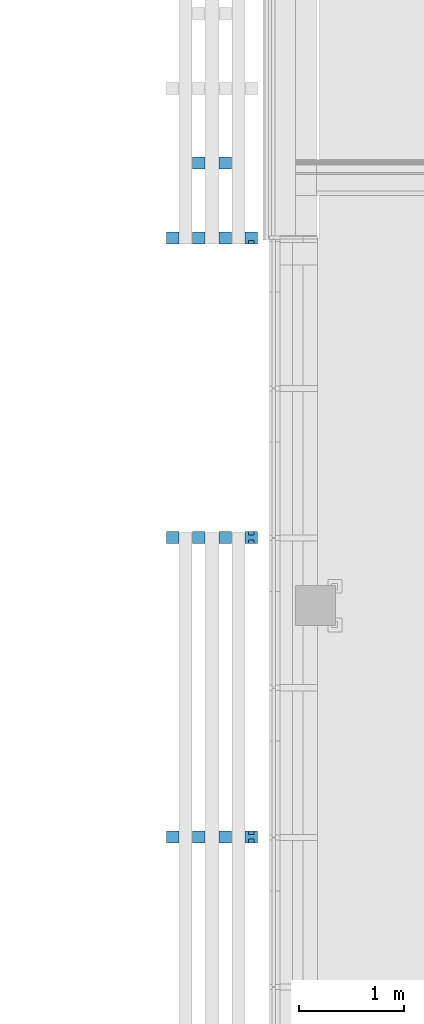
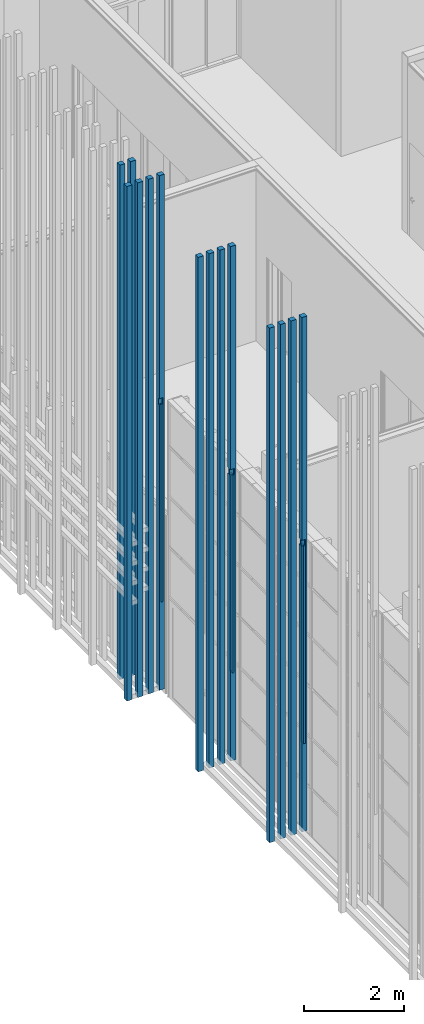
# One storey, part 146 of 260: 9 discrete accessories.
"""IFC2X3 building model written with IfcOpenShell, lengths in millimetres."""

from ifc_helpers import new_model, entity, si_unit, converted_unit, derived_unit, money_unit, direction, frame, origin_with_axes, place, context, subcontext, project, spatial, faceted_brep, material, material_list, type_object, element, save


model = new_model("IFC2X3")

# Units and contexts
model_context = context("Model", 3, precision=0.01, world=origin_with_axes(), true_north=direction((0.0, 1.0)))
body_context = subcontext(model_context, "Body", "Model", "MODEL_VIEW")
ifc_project = project(units=[si_unit("LENGTHUNIT", "METRE", prefix="MILLI"), si_unit("AREAUNIT", "SQUARE_METRE"), si_unit("VOLUMEUNIT", "CUBIC_METRE"), converted_unit("PLANEANGLEUNIT", "DEGREE", entity("IfcPlaneAngleMeasure", 0.0174532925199), si_unit("PLANEANGLEUNIT", "RADIAN"), dimensions=[0, 0, 0, 0, 0, 0, 0]), money_unit("EUR"), converted_unit("TIMEUNIT", "Year", entity("IfcTimeMeasure", 31556926.0), si_unit("TIMEUNIT", "SECOND"), dimensions=[0, 0, 1, 0, 0, 0, 0]), si_unit("MASSUNIT", "GRAM", prefix="KILO"), si_unit("THERMODYNAMICTEMPERATUREUNIT", "DEGREE_CELSIUS"), si_unit("LUMINOUSINTENSITYUNIT", "LUMEN"), si_unit("ENERGYUNIT", "JOULE", prefix="MEGA"), derived_unit("THERMALCONDUCTANCEUNIT", [(si_unit("POWERUNIT", "WATT"), 1), (si_unit("LENGTHUNIT", "METRE"), -1), (si_unit("THERMODYNAMICTEMPERATUREUNIT", "KELVIN"), -1)]), derived_unit("SPECIFICHEATCAPACITYUNIT", [(si_unit("ENERGYUNIT", "JOULE"), 1), (si_unit("MASSUNIT", "GRAM", prefix="KILO"), -1), (si_unit("THERMODYNAMICTEMPERATUREUNIT", "KELVIN"), -1)]), derived_unit("MASSDENSITYUNIT", [(si_unit("MASSUNIT", "GRAM", prefix="KILO"), 1), (si_unit("VOLUMEUNIT", "CUBIC_METRE"), -1)])], contexts=[model_context])

# Site, building, storey
site_placement = place(None, origin_with_axes())
site = spatial("IfcSite", under=ifc_project, at=site_placement, Name="Kolde pst 67a", CompositionType="ELEMENT")
building_placement = place(site_placement, origin_with_axes())
building = spatial("IfcBuilding", under=site, at=building_placement, Name="Riigigümnaasium", CompositionType="ELEMENT")
storey_placement = place(building_placement, origin_with_axes())
storey = spatial("IfcBuildingStorey", under=building, at=storey_placement, Name="1. korrus", CompositionType="ELEMENT", Elevation=0.0)

# Discrete accessories
ifc_material_1 = material(Name="_VÄLISVIIMISTLUS - sõrmjätkatud puitprussid 120x115mm, liitekohad vähemärgatavad, Platowood sõrmjätkatud kuusk või samaväärne; eeltöödeldud tuletõkkevõõbaga, tuletundlikkus B-s1, d0, Woodsafe Exterior WFX™ või samaväärne; kinnitused vastavalt EK osale")
ifc_material_list_1 = material_list([ifc_material_1, ifc_material_1, ifc_material_1, ifc_material_1])
discrete_accessory_type_1 = type_object("IfcDiscreteAccessoryType", Name="120 4-ne vertikaalne 870 x 115")
discrete_accessory_1_placement = place(storey_placement, frame((23688.0028833, 32242.9992107, 280.0), z_axis=(0.0, 0.0, 1.0), x_axis=(0.999999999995, 3.13999128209e-06, 0.0)))
element("IfcDiscreteAccessory", 1, at=discrete_accessory_1_placement, inside=storey, type_object=discrete_accessory_type_1, material=ifc_material_list_1, Name="Päikesevarjestus", context=body_context, shape_type="Brep", body=[
    faceted_brep([(-98.0002446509, -35.0001098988, 6990.0), (-48.0002446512, -35.0002668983, 6990.0), (-47.6623175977, -35.0002679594, 6990.0), (-47.6623175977, -35.0002679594, 7140.0), (-133.0, -34.9999999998, 7140.0), (-133.0, -34.9999999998, 6990.0), (-98.0002446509, -35.0001098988, 2146.5), (-48.0002446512, -35.0002668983, 2146.5), (-48.0003545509, -70.0002668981, 6990.0), (-47.6624274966, -70.0, 6990.0), (-47.6624274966, -70.0, 7140.0), (-133.0, -70.0, 7140.0), (-133.0, -70.0, 6990.0), (-133.0, -70.0, 12600.0), (-133.0, 45.0, 12600.0), (-133.0, 45.0, 7140.0), (-133.0, 10.0001255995, 7140.0), (-133.0, 10.0001255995, 6990.0), (-133.0, 45.0, 6990.0), (-133.0, 45.0, 0.0), (-133.0, -70.0, 0.0), (-98.0003545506, -70.0001098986, 6990.0), (-98.0003545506, -70.0001098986, 2146.5), (-48.0003545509, -70.0002668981, 2146.5), (-13.0, -70.0, 0.0), (-13.0, -70.0, 12600.0), (-13.0, 45.0, 12600.0), (-97.9999934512, 45.0000156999, 6990.0), (-97.9999934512, 45.0000156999, 2146.5), (-47.9999934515, 44.9998587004, 2146.5), (-47.9999934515, 44.9998587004, 6990.0), (-47.4889259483, 45.0, 6990.0), (-47.4889259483, 45.0, 7140.0), (-13.0, 45.0, 0.0), (-47.4890358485, 9.99985709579, 7140.0), (-47.4890358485, 9.99985709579, 6990.0), (-48.0001033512, 9.99985870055, 6990.0), (-98.0001033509, 10.0000157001, 6990.0), (-98.0001033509, 10.0000157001, 2146.5), (-48.0001033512, 9.99985870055, 2146.5)], [[[0, 1, 2, 3, 4, 5]], [[1, 0, 6, 7]], [[1, 8, 9, 2]], [[3, 2, 9, 10]], [[4, 3, 10, 11]], [[12, 5, 4, 11, 13, 14, 15, 16, 17, 18, 19, 20]], [[21, 0, 5, 12]], [[0, 21, 22, 6]], [[22, 23, 7, 6]], [[8, 1, 7, 23]], [[22, 21, 12, 20, 24, 25, 13, 11, 10, 9, 8, 23]], [[25, 26, 14, 13]], [[27, 28, 29, 30, 31, 32, 15, 14, 26, 33, 19, 18]], [[34, 16, 15, 32]], [[35, 36, 37, 17, 16, 34]], [[17, 37, 27, 18]], [[19, 33, 24, 20]], [[33, 26, 25, 24]], [[38, 28, 27, 37]], [[39, 29, 28, 38]], [[39, 36, 30, 29]], [[31, 30, 36, 35]], [[35, 34, 32, 31]], [[38, 37, 36, 39]]]),
    faceted_brep([(-383.0, -70.0, 0.0), (-263.0, -70.0, 0.0), (-263.0, -70.0, 12600.0), (-383.0, -70.0, 12600.0), (-383.0, 45.0, 0.0), (-263.0, 45.0, 0.0), (-263.0, 45.0, 12600.0), (-383.0, 45.0, 12600.0)], [[[0, 1, 2, 3]], [[0, 4, 5, 1]], [[1, 5, 6, 2]], [[3, 2, 6, 7]], [[4, 0, 3, 7]], [[5, 4, 7, 6]]]),
    faceted_brep([(-633.0, -70.0, 0.0), (-513.0, -70.0, 0.0), (-513.0, -70.0, 12600.0), (-633.0, -70.0, 12600.0), (-633.0, 45.0, 0.0), (-513.0, 45.0, 0.0), (-513.0, 45.0, 12600.0), (-633.0, 45.0, 12600.0)], [[[0, 1, 2, 3]], [[0, 4, 5, 1]], [[1, 5, 6, 2]], [[3, 2, 6, 7]], [[4, 0, 3, 7]], [[5, 4, 7, 6]]]),
    faceted_brep([(-883.0, -70.0, 0.0), (-763.0, -70.0, 0.0), (-763.0, -70.0, 12600.0), (-883.0, -70.0, 12600.0), (-883.0, 45.0, 0.0), (-763.0, 45.0, 0.0), (-763.0, 45.0, 12600.0), (-883.0, 45.0, 12600.0)], [[[0, 1, 2, 3]], [[0, 4, 5, 1]], [[1, 5, 6, 2]], [[3, 2, 6, 7]], [[4, 0, 3, 7]], [[5, 4, 7, 6]]]),
])
discrete_accessory_2_placement = place(storey_placement, frame((23687.9669618, 35102.9845193, 280.0), z_axis=(0.0, 0.0, 1.0), x_axis=(0.999999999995, 3.13999128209e-06, 0.0)))
element("IfcDiscreteAccessory", 2, at=discrete_accessory_2_placement, inside=storey, type_object=discrete_accessory_type_1, material=ifc_material_list_1, Name="Päikesevarjestus", context=body_context, shape_type="Brep", body=[
    faceted_brep([(-97.8229047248, 45.0, 2146.5), (-47.8229047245, 45.0, 2146.5), (-47.8229047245, 45.0, 6990.0), (-47.8229047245, 45.0, 7140.0), (-133.0, 45.0, 7140.0), (-133.0, 45.0, 12600.0), (-13.0, 45.0, 12600.0), (-13.0, 45.0, 0.0), (-133.0, 45.0, 0.0), (-133.0, 45.0, 6990.0), (-97.8229047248, 45.0, 6990.0), (-97.8230145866, 10.0120490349, 2146.5), (-47.8230145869, 10.0118920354, 2146.5), (-47.8230145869, 10.0118920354, 6990.0), (-47.8230145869, 10.0118920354, 7140.0), (-133.0, 10.0121594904, 7140.0), (-133.0, -70.0, 6990.0), (-133.0, -34.9998899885, 6990.0), (-133.0, -34.9998899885, 7140.0), (-133.0, -70.0, 7140.0), (-133.0, -70.0, 12600.0), (-133.0, 10.0121594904, 6990.0), (-133.0, -70.0, 0.0), (-13.0, -70.0, 12600.0), (-13.0, -70.0, 0.0), (-97.8230145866, 10.0120490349, 6990.0), (-97.964433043, -70.0, 6990.0), (-97.9643231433, -35.0000000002, 6990.0), (-47.9643231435, -35.0001569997, 6990.0), (-47.4532556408, -35.0001586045, 6990.0), (-47.4532556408, -35.0001586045, 7140.0), (-47.45336554, -70.0, 7140.0), (-47.9644330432, -70.0001569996, 2146.5), (-97.964433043, -70.0, 2146.5), (-47.45336554, -70.0, 6990.0), (-47.9644330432, -70.0001569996, 6990.0), (-97.9643231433, -35.0000000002, 2146.5), (-47.9643231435, -35.0001569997, 2146.5)], [[[0, 1, 2, 3, 4, 5, 6, 7, 8, 9, 10]], [[1, 0, 11, 12]], [[13, 2, 1, 12]], [[2, 13, 14, 3]], [[14, 15, 4, 3]], [[16, 17, 18, 19, 20, 5, 4, 15, 21, 9, 8, 22]], [[23, 6, 5, 20]], [[7, 6, 23, 24]], [[8, 7, 24, 22]], [[25, 10, 9, 21]], [[0, 10, 25, 11]], [[25, 13, 12, 11]], [[13, 25, 21, 15, 14]], [[16, 26, 27, 17]], [[17, 27, 28, 29, 30, 18]], [[18, 30, 31, 19]], [[32, 33, 26, 16, 22, 24, 23, 20, 19, 31, 34, 35]], [[36, 27, 26, 33]], [[37, 28, 27, 36]], [[29, 28, 35, 34]], [[30, 29, 34, 31]], [[36, 33, 32, 37]], [[32, 35, 28, 37]]]),
    faceted_brep([(-383.0, -70.0, 0.0), (-263.0, -70.0, 0.0), (-263.0, -70.0, 12600.0), (-383.0, -70.0, 12600.0), (-383.0, 45.0, 0.0), (-263.0, 45.0, 0.0), (-263.0, 45.0, 12600.0), (-383.0, 45.0, 12600.0)], [[[0, 1, 2, 3]], [[0, 4, 5, 1]], [[1, 5, 6, 2]], [[3, 2, 6, 7]], [[4, 0, 3, 7]], [[5, 4, 7, 6]]]),
    faceted_brep([(-633.0, -70.0, 0.0), (-513.0, -70.0, 0.0), (-513.0, -70.0, 12600.0), (-633.0, -70.0, 12600.0), (-633.0, 45.0, 0.0), (-513.0, 45.0, 0.0), (-513.0, 45.0, 12600.0), (-633.0, 45.0, 12600.0)], [[[0, 1, 2, 3]], [[0, 4, 5, 1]], [[1, 5, 6, 2]], [[3, 2, 6, 7]], [[4, 0, 3, 7]], [[5, 4, 7, 6]]]),
    faceted_brep([(-883.0, -70.0, 0.0), (-763.0, -70.0, 0.0), (-763.0, -70.0, 12600.0), (-883.0, -70.0, 12600.0), (-883.0, 45.0, 0.0), (-763.0, 45.0, 0.0), (-763.0, 45.0, 12600.0), (-883.0, 45.0, 12600.0)], [[[0, 1, 2, 3]], [[0, 4, 5, 1]], [[1, 5, 6, 2]], [[3, 2, 6, 7]], [[4, 0, 3, 7]], [[5, 4, 7, 6]]]),
])
discrete_accessory_3_placement = place(storey_placement, frame((23688.108129, 37962.9964432, 280.0), z_axis=(0.0, 0.0, 1.0), x_axis=(0.999999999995, 3.13999128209e-06, 0.0)))
element("IfcDiscreteAccessory", 3, at=discrete_accessory_3_placement, inside=storey, type_object=discrete_accessory_type_1, material=ifc_material_list_1, Name="Päikesevarjestus", context=body_context, shape_type="Brep", body=[
    faceted_brep([(-97.9643231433, -35.0000000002, 6990.0), (-47.9643231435, -35.0001569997, 6990.0), (-47.9643231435, -35.0001569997, 7140.0), (-133.0, -34.9998899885, 7140.0), (-133.0, -34.9998899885, 6990.0), (-97.9643231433, -35.0000000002, 2146.5), (-47.9643231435, -35.0001569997, 2146.5), (-47.9644330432, -70.0001569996, 6990.0), (-47.9644330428, -70.0, 7140.0), (-133.0, -70.0, 7140.0), (-133.0, -70.0, 12600.0), (-133.0, 45.0, 12600.0), (-133.0, 45.0, 0.0), (-133.0, -70.0, 0.0), (-133.0, -70.0, 6990.0), (-97.964433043, -70.0, 6990.0), (-97.964433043, -70.0, 2146.5), (-47.9644330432, -70.0001569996, 2146.5), (-13.0, -70.0, 0.0), (-13.0, -70.0, 12600.0), (-13.0, 45.0, 12600.0), (-13.0, 45.0, 0.0)], [[[0, 1, 2, 3, 4]], [[1, 0, 5, 6]], [[1, 7, 8, 2]], [[2, 8, 9, 3]], [[4, 3, 9, 10, 11, 12, 13, 14]], [[15, 0, 4, 14]], [[0, 15, 16, 5]], [[16, 17, 6, 5]], [[7, 1, 6, 17]], [[16, 15, 14, 13, 18, 19, 10, 9, 8, 7, 17]], [[20, 11, 10, 19]], [[11, 20, 21, 12]], [[21, 18, 13, 12]], [[20, 19, 18, 21]]]),
    faceted_brep([(-383.0, -70.0, 0.0), (-263.0, -70.0, 0.0), (-263.0, -70.0, 12600.0), (-383.0, -70.0, 12600.0), (-383.0, 45.0, 0.0), (-263.0, 45.0, 0.0), (-263.0, 45.0, 12600.0), (-383.0, 45.0, 12600.0)], [[[0, 1, 2, 3]], [[0, 4, 5, 1]], [[1, 5, 6, 2]], [[3, 2, 6, 7]], [[4, 0, 3, 7]], [[5, 4, 7, 6]]]),
    faceted_brep([(-633.0, -70.0, 0.0), (-513.0, -70.0, 0.0), (-513.0, -70.0, 12600.0), (-633.0, -70.0, 12600.0), (-633.0, 45.0, 0.0), (-513.0, 45.0, 0.0), (-513.0, 45.0, 12600.0), (-633.0, 45.0, 12600.0)], [[[0, 1, 2, 3]], [[0, 4, 5, 1]], [[1, 5, 6, 2]], [[3, 2, 6, 7]], [[4, 0, 3, 7]], [[5, 4, 7, 6]]]),
    faceted_brep([(-883.0, -70.0, 0.0), (-763.0, -70.0, 0.0), (-763.0, -70.0, 12600.0), (-883.0, -70.0, 12600.0), (-883.0, 45.0, 0.0), (-763.0, 45.0, 0.0), (-763.0, 45.0, 12600.0), (-883.0, 45.0, 12600.0)], [[[0, 1, 2, 3]], [[0, 4, 5, 1]], [[1, 5, 6, 2]], [[3, 2, 6, 7]], [[4, 0, 3, 7]], [[5, 4, 7, 6]]]),
])
ifc_material_list_2 = material_list([ifc_material_1, ifc_material_1])
discrete_accessory_type_2 = type_object("IfcDiscreteAccessoryType", Name="1+paiksekaitse 3 370 x 115")
discrete_accessory_4_placement = place(storey_placement, frame((22708.1079799, 38607.4944964, 280.0), z_axis=(0.0, 0.0, 1.0), x_axis=(1.0, 0.0, 0.0)))
element("IfcDiscreteAccessory", 4, at=discrete_accessory_4_placement, inside=storey, type_object=discrete_accessory_type_2, material=ifc_material_list_2, Name="Päikesevarjestus", context=body_context, shape_type="Brep", body=[
    faceted_brep([(467.0, 117.5, 0.0), (347.0, 117.5, 0.0), (347.0, 117.5, 12600.0), (467.0, 117.5, 12600.0), (467.0, 2.5, 0.0), (347.0, 2.5, 0.0), (347.0, 2.5, 12600.0), (467.0, 2.5, 12600.0)], [[[0, 1, 2, 3]], [[0, 4, 5, 1]], [[1, 5, 6, 2]], [[3, 2, 6, 7]], [[4, 0, 3, 7]], [[5, 4, 7, 6]]]),
    faceted_brep([(717.0, 117.5, 0.0), (597.0, 117.5, 0.0), (597.0, 117.5, 12600.0), (717.0, 117.5, 12600.0), (717.0, 2.5, 0.0), (597.0, 2.5, 0.0), (597.0, 2.5, 12600.0), (717.0, 2.5, 12600.0)], [[[0, 1, 2, 3]], [[0, 4, 5, 1]], [[1, 5, 6, 2]], [[3, 2, 6, 7]], [[4, 0, 3, 7]], [[5, 4, 7, 6]]]),
])
ifc_material_2 = material(Name="_METALL - teras")
discrete_accessory_type_3 = type_object("IfcDiscreteAccessoryType", Name="_METALL - teras 50 x 35")
discrete_accessory_5_placement = place(storey_placement, frame((23615.0027486, 35050.4842117, 2426.5), z_axis=(0.0, 0.0, 1.0), x_axis=(1.0, 0.0, 0.0)))
element("IfcDiscreteAccessory", 5, at=discrete_accessory_5_placement, inside=storey, type_object=discrete_accessory_type_3, material=ifc_material_2, Name="Varjestuskardina külgsiin RENSON või analoog", context=body_context, shape_type="Brep", body=[
    faceted_brep([(25.0, 17.5, 4843.5), (25.0, 17.5, 0.0), (-25.0, 17.5, 0.0), (-25.0, 17.5, 4843.5), (25.0, -17.5, 4843.5), (25.0, -17.5, 0.0), (-25.0, -17.5, 0.0), (-25.0, -17.5, 4843.5)], [[[0, 1, 2, 3]], [[4, 5, 1, 0]], [[2, 1, 5, 6]], [[3, 2, 6, 7]], [[4, 0, 3, 7]], [[7, 6, 5, 4]]]),
])
discrete_accessory_6_placement = place(storey_placement, frame((23615.0027486, 32270.4989187, 2426.5), z_axis=(0.0, 0.0, 1.0), x_axis=(-1.0, 0.0, 0.0)))
element("IfcDiscreteAccessory", 6, at=discrete_accessory_6_placement, inside=storey, type_object=discrete_accessory_type_3, material=ifc_material_2, Name="Varjestuskardina külgsiin RENSON või analoog", context=body_context, shape_type="Brep", body=[
    faceted_brep([(-25.0, -17.5, 4843.5), (-25.0, -17.5, 0.0), (25.0, -17.5, 0.0), (25.0, -17.5, 4843.5), (-25.0, 17.5, 4843.5), (-25.0, 17.5, 0.0), (25.0, 17.5, 0.0), (25.0, 17.5, 4843.5)], [[[0, 1, 2, 3]], [[4, 5, 1, 0]], [[2, 1, 5, 6]], [[3, 2, 6, 7]], [[4, 0, 3, 7]], [[7, 6, 5, 4]]]),
])
for number, where, z_axis, x_axis in (
    (7, (23615.0027486, 32190.4987931, 2426.5), (0.0, 0.0, 1.0), (1.0, 0.0, 0.0)),
    (8, (23615.1439158, 37910.4961356, 2426.5), (0.0, 0.0, 1.0), (1.0, 0.0, 0.0)),
):
    element("IfcDiscreteAccessory", number, at=place(storey_placement, frame(where, z_axis=z_axis, x_axis=x_axis)), inside=storey, type_object=discrete_accessory_type_3, material=ifc_material_2, Name="Varjestuskardina külgsiin RENSON või analoog", context=body_context, shape_type="Brep", body=[
        faceted_brep([(25.0, 17.5, 4843.5), (25.0, 17.5, 0.0), (-25.0, 17.5, 0.0), (-25.0, 17.5, 4843.5), (25.0, -17.5, 4843.5), (25.0, -17.5, 0.0), (-25.0, -17.5, 0.0), (-25.0, -17.5, 4843.5)], [[[0, 1, 2, 3]], [[4, 5, 1, 0]], [[2, 1, 5, 6]], [[3, 2, 6, 7]], [[4, 0, 3, 7]], [[7, 6, 5, 4]]]),
    ])
discrete_accessory_7_placement = place(storey_placement, frame((23615.1439158, 35130.4962612, 2426.5), z_axis=(0.0, 0.0, 1.0), x_axis=(-1.0, 0.0, 0.0)))
element("IfcDiscreteAccessory", 9, at=discrete_accessory_7_placement, inside=storey, type_object=discrete_accessory_type_3, material=ifc_material_2, Name="Varjestuskardina külgsiin RENSON või analoog", context=body_context, shape_type="Brep", body=[
    faceted_brep([(-25.0, -17.5, 4843.5), (-25.0, -17.5, 0.0), (25.0, -17.5, 0.0), (25.0, -17.5, 4843.5), (-25.0, 17.5, 4843.5), (-25.0, 17.5, 0.0), (25.0, 17.5, 0.0), (25.0, 17.5, 4843.5)], [[[0, 1, 2, 3]], [[4, 5, 1, 0]], [[2, 1, 5, 6]], [[3, 2, 6, 7]], [[4, 0, 3, 7]], [[7, 6, 5, 4]]]),
])

save(model, "model.ifc")
